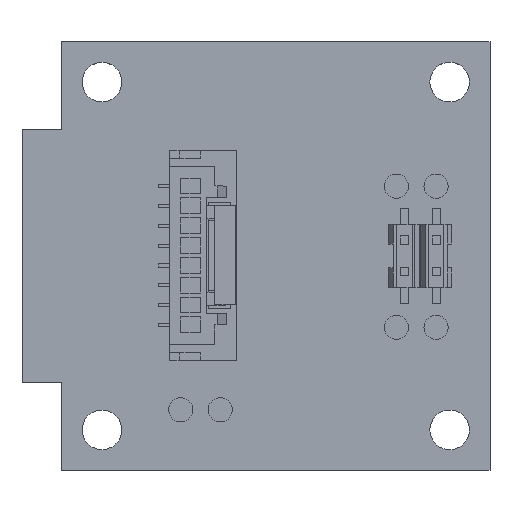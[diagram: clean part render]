
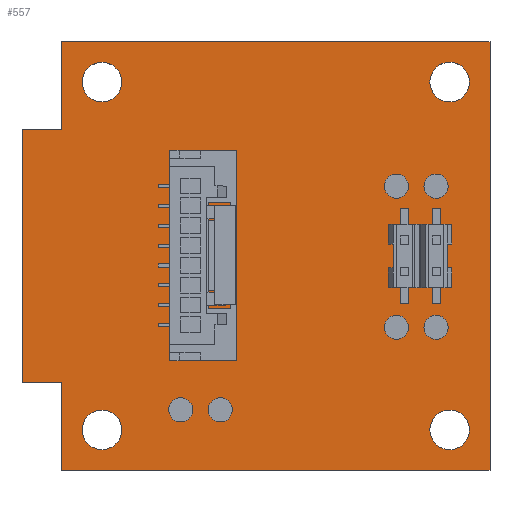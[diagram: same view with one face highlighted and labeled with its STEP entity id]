
A CAD part, top view. The second image highlights one B-rep face of the part: STEP entity #557.
In plain terms, the highlighted planar face has unit normal (0, 0, 1).
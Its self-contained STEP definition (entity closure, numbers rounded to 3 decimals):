
#156 = VERTEX_POINT('',#157);
#157 = CARTESIAN_POINT('',(-16.,-8.,1.601));
#163 = EDGE_CURVE('',#156,#164,#166,.T.);
#164 = VERTEX_POINT('',#165);
#165 = CARTESIAN_POINT('',(-13.5,-8.,1.601));
#166 = LINE('',#167,#168);
#167 = CARTESIAN_POINT('',(-16.,-8.,1.601));
#168 = VECTOR('',#169,1.);
#169 = DIRECTION('',(1.,0.,0.));
#194 = EDGE_CURVE('',#164,#195,#197,.T.);
#195 = VERTEX_POINT('',#196);
#196 = CARTESIAN_POINT('',(-13.5,-13.5,1.601));
#197 = LINE('',#198,#199);
#198 = CARTESIAN_POINT('',(-13.5,-8.,1.601));
#199 = VECTOR('',#200,1.);
#200 = DIRECTION('',(0.,-1.,0.));
#225 = EDGE_CURVE('',#195,#226,#228,.T.);
#226 = VERTEX_POINT('',#227);
#227 = CARTESIAN_POINT('',(13.5,-13.5,1.601));
#228 = LINE('',#229,#230);
#229 = CARTESIAN_POINT('',(-13.5,-13.5,1.601));
#230 = VECTOR('',#231,1.);
#231 = DIRECTION('',(1.,0.,0.));
#256 = EDGE_CURVE('',#226,#257,#259,.T.);
#257 = VERTEX_POINT('',#258);
#258 = CARTESIAN_POINT('',(13.5,13.5,1.601));
#259 = LINE('',#260,#261);
#260 = CARTESIAN_POINT('',(13.5,-13.5,1.601));
#261 = VECTOR('',#262,1.);
#262 = DIRECTION('',(0.,1.,0.));
#287 = EDGE_CURVE('',#257,#288,#290,.T.);
#288 = VERTEX_POINT('',#289);
#289 = CARTESIAN_POINT('',(-13.5,13.5,1.601));
#290 = LINE('',#291,#292);
#291 = CARTESIAN_POINT('',(13.5,13.5,1.601));
#292 = VECTOR('',#293,1.);
#293 = DIRECTION('',(-1.,0.,0.));
#318 = EDGE_CURVE('',#288,#319,#321,.T.);
#319 = VERTEX_POINT('',#320);
#320 = CARTESIAN_POINT('',(-13.5,8.,1.601));
#321 = LINE('',#322,#323);
#322 = CARTESIAN_POINT('',(-13.5,13.5,1.601));
#323 = VECTOR('',#324,1.);
#324 = DIRECTION('',(0.,-1.,0.));
#349 = EDGE_CURVE('',#319,#350,#352,.T.);
#350 = VERTEX_POINT('',#351);
#351 = CARTESIAN_POINT('',(-16.,8.,1.601));
#352 = LINE('',#353,#354);
#353 = CARTESIAN_POINT('',(-13.5,8.,1.601));
#354 = VECTOR('',#355,1.);
#355 = DIRECTION('',(-1.,0.,0.));
#380 = EDGE_CURVE('',#350,#156,#381,.T.);
#381 = LINE('',#382,#383);
#382 = CARTESIAN_POINT('',(-16.,8.,1.601));
#383 = VECTOR('',#384,1.);
#384 = DIRECTION('',(0.,-1.,0.));
#404 = VERTEX_POINT('',#405);
#405 = CARTESIAN_POINT('',(-9.71,-10.96,1.601));
#411 = EDGE_CURVE('',#404,#404,#412,.T.);
#412 = CIRCLE('',#413,1.25);
#413 = AXIS2_PLACEMENT_3D('',#414,#415,#416);
#414 = CARTESIAN_POINT('',(-10.96,-10.96,1.601));
#415 = DIRECTION('',(0.,0.,1.));
#416 = DIRECTION('',(1.,0.,-0.));
#437 = VERTEX_POINT('',#438);
#438 = CARTESIAN_POINT('',(-9.71,10.96,1.601));
#444 = EDGE_CURVE('',#437,#437,#445,.T.);
#445 = CIRCLE('',#446,1.25);
#446 = AXIS2_PLACEMENT_3D('',#447,#448,#449);
#447 = CARTESIAN_POINT('',(-10.96,10.96,1.601));
#448 = DIRECTION('',(0.,0.,1.));
#449 = DIRECTION('',(1.,0.,-0.));
#470 = VERTEX_POINT('',#471);
#471 = CARTESIAN_POINT('',(12.21,-10.96,1.601));
#477 = EDGE_CURVE('',#470,#470,#478,.T.);
#478 = CIRCLE('',#479,1.25);
#479 = AXIS2_PLACEMENT_3D('',#480,#481,#482);
#480 = CARTESIAN_POINT('',(10.96,-10.96,1.601));
#481 = DIRECTION('',(0.,0.,1.));
#482 = DIRECTION('',(1.,0.,-0.));
#503 = VERTEX_POINT('',#504);
#504 = CARTESIAN_POINT('',(12.21,10.96,1.601));
#510 = EDGE_CURVE('',#503,#503,#511,.T.);
#511 = CIRCLE('',#512,1.25);
#512 = AXIS2_PLACEMENT_3D('',#513,#514,#515);
#513 = CARTESIAN_POINT('',(10.96,10.96,1.601));
#514 = DIRECTION('',(0.,0.,1.));
#515 = DIRECTION('',(1.,0.,-0.));
#557 = ADVANCED_FACE('',(#558,#568,#571,#574,#577),#580,.T.);
#558 = FACE_BOUND('',#559,.T.);
#559 = EDGE_LOOP('',(#560,#561,#562,#563,#564,#565,#566,#567));
#560 = ORIENTED_EDGE('',*,*,#163,.T.);
#561 = ORIENTED_EDGE('',*,*,#194,.T.);
#562 = ORIENTED_EDGE('',*,*,#225,.T.);
#563 = ORIENTED_EDGE('',*,*,#256,.T.);
#564 = ORIENTED_EDGE('',*,*,#287,.T.);
#565 = ORIENTED_EDGE('',*,*,#318,.T.);
#566 = ORIENTED_EDGE('',*,*,#349,.T.);
#567 = ORIENTED_EDGE('',*,*,#380,.T.);
#568 = FACE_BOUND('',#569,.T.);
#569 = EDGE_LOOP('',(#570));
#570 = ORIENTED_EDGE('',*,*,#411,.F.);
#571 = FACE_BOUND('',#572,.T.);
#572 = EDGE_LOOP('',(#573));
#573 = ORIENTED_EDGE('',*,*,#444,.F.);
#574 = FACE_BOUND('',#575,.T.);
#575 = EDGE_LOOP('',(#576));
#576 = ORIENTED_EDGE('',*,*,#477,.F.);
#577 = FACE_BOUND('',#578,.T.);
#578 = EDGE_LOOP('',(#579));
#579 = ORIENTED_EDGE('',*,*,#510,.F.);
#580 = PLANE('',#581);
#581 = AXIS2_PLACEMENT_3D('',#582,#583,#584);
#582 = CARTESIAN_POINT('',(-1.007,0.,1.601));
#583 = DIRECTION('',(0.,0.,1.));
#584 = DIRECTION('',(1.,0.,-0.));
